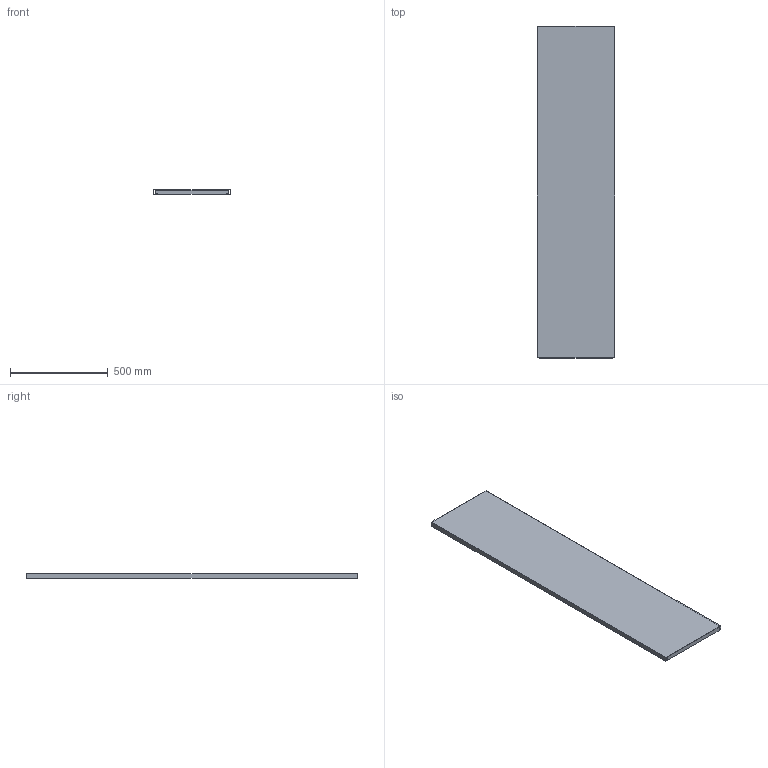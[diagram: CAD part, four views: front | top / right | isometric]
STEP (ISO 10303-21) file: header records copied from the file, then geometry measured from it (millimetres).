
FILE_DESCRIPTION( ( 'STEP AP214' ), '1' );
FILE_NAME( 'p:/temp/worker_144/temp/exporttempdir_1852_185_rasIC/format_0/MP1805(0).stp', '2021-03-15T23:23:45', ( 'License CC BY-ND 4.0' ), ( 'CADENAS' ), ' ', 'PARTsolutions', ' ' );
FILE_SCHEMA( ( 'AUTOMOTIVE_DESIGN { 1 0 10303 214 1 1 1 1 }' ) );
Length unit declared in the file: millimetre
Products named in the file (2): MP1805(0); _MP1805(0)_P1
Assembly tree (1 placements, depth 2):
  MP1805(0)
    _MP1805(0)_P1
Bounding box: 394 x 1694 x 24.5 mm (x, y, z)
Volume: 2426274 mm3; surface area: 1630830 mm2
Topology: 1 solids, 1 shells, 42 faces, 120 edges, 80 vertices
Faces by surface type: plane 42
Entity records: 1718 total; most frequent: CARTESIAN_POINT 244, ORIENTED_EDGE 240, DIRECTION 208, EDGE_CURVE 120, LINE 120, VECTOR 120, VERTEX_POINT 80, AXIS2_PLACEMENT_3D 44
